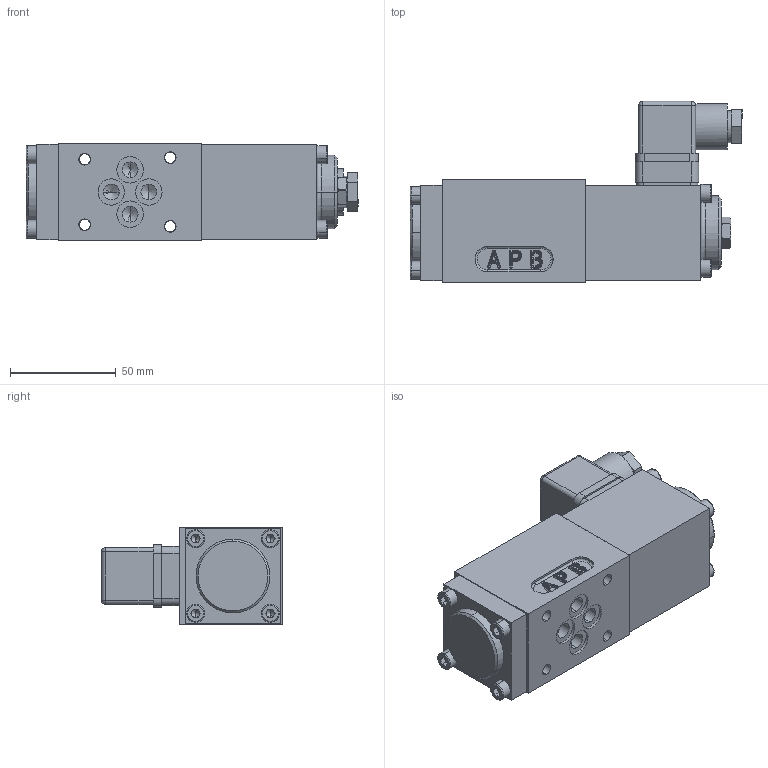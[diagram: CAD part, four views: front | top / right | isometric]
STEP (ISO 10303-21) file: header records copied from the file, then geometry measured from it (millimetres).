
FILE_DESCRIPTION (( 'STEP AP214' ), '1' );
FILE_NAME ('WDMFA06-4_2-Bside.STEP', '2017-03-17T13:41:45', ( '' ), ( '' ), 'SwSTEP 2.0', 'SolidWorks 2016', '' );
FILE_SCHEMA (( 'AUTOMOTIVE_DESIGN' ));
Length unit declared in the file: millimetre
Products named in the file (1): WDMFA06-4_2-Bside
Bounding box: 157.25 x 85.8 x 46 mm (x, y, z)
Volume: 318587.3 mm3; surface area: 58443 mm2
Topology: 10 solids, 12 shells, 1127 faces, 2756 edges, 1641 vertices
Faces by surface type: plane 437, cylinder 384, torus 99, cone 92, bspline 58, sphere 57
Entity records: 48262 total; most frequent: CARTESIAN_POINT 9451, DIRECTION 5745, ORIENTED_EDGE 5340, EDGE_CURVE 2670, AXIS2_PLACEMENT_3D 2189, VERTEX_POINT 1640, LINE 1367, VECTOR 1367
